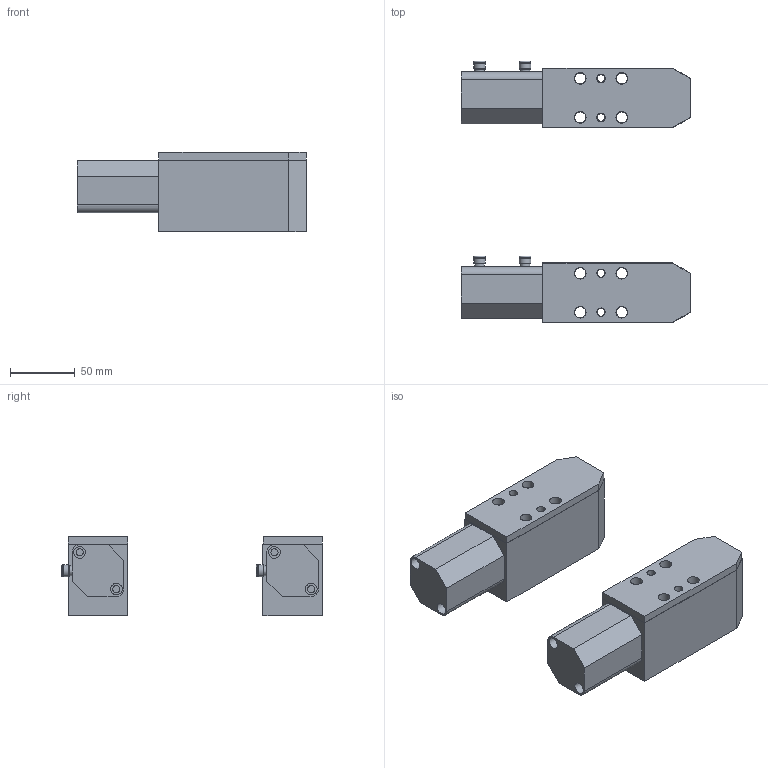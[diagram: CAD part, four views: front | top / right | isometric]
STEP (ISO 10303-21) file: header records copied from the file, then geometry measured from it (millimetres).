
FILE_DESCRIPTION(('STEP AP214'),'1');
FILE_NAME('1001.0010.stp','2020-05-22T14:12:09',(' '),(' '),'Spatial InterOp 3D',' ',' ');
FILE_SCHEMA(('AUTOMOTIVE_DESIGN { 1 0 10303 214 1 1 1 1 }'));
Length unit declared in the file: millimetre
Products named in the file (7): (PMS) 1001.0010; 5; 4; Assemblato; (PMI) 1001.0010; 6; 2
Assembly tree (6 placements, depth 3):
  Assemblato
    (PMS) 1001.0010
      5
      4
    (PMI) 1001.0010
      6
      2
Bounding box: 176.5 x 201.25 x 61 mm (x, y, z)
Volume: 730324.9 mm3; surface area: 130284.3 mm2
Topology: 4 solids, 4 shells, 760 faces, 1994 edges, 1332 vertices
Faces by surface type: extrusion 368, plane 276, cylinder 98, torus 12, cone 4, sphere 2
Full cylindrical faces by diameter (mm): 5.5 x4, 6 x4, 6.5 x4, 6.8 x4, 7.5 x8, 8.5 x8, 9 x20, 10 x2, 13.9 x8
Entity records: 29574 total; most frequent: CARTESIAN_POINT 6275, ORIENTED_EDGE 3764, DIRECTION 2526, EDGE_CURVE 1882, VERTEX_POINT 1302, VECTOR 1300, B_SPLINE_CURVE_WITH_KNOTS 1106, EDGE_LOOP 956
